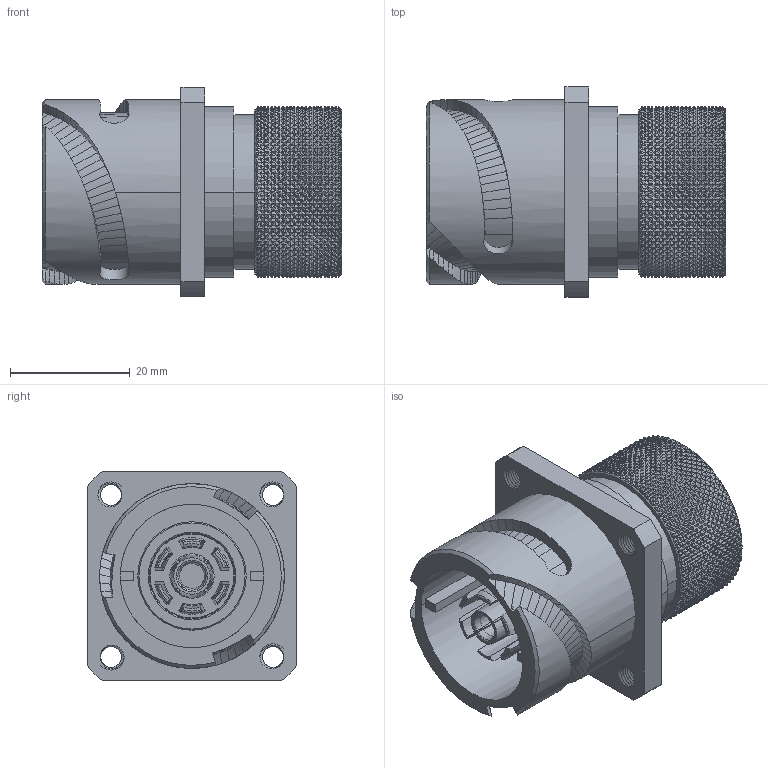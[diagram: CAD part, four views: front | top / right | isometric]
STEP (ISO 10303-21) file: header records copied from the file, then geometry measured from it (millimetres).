
FILE_DESCRIPTION((''),'2;1');
FILE_NAME('GCE3100E18M50S-B-T3_S_SW0001','2023-06-23T10:32:49',('paultorloting'),('NET AG system integration'),'CREO PARAMETRIC BY PTC INC, 2021404','CREO PARAMETRIC BY PTC INC, 2021404','');
FILE_SCHEMA(('AUTOMOTIVE_DESIGN { 1 0 10303 214 1 1 1 1 }'));
Products named in the file (1): GCE3100E18M50S-B-T3_S_SW0001
Bounding box: 50 x 35 x 35 mm (x, y, z)
Volume: 25365.8 mm3; surface area: 11857.9 mm2
Topology: 1 solids, 1 shells, 13140 faces, 28609 edges, 15495 vertices
Faces by surface type: bspline 5264, plane 4149, cylinder 1889, cone 1804, torus 34
Entity records: 537669 total; most frequent: CARTESIAN_POINT 213357, ORIENTED_EDGE 57218, DIRECTION 32569, EDGE_CURVE 28609, B_SPLINE_CURVE_WITH_KNOTS 18077, VERTEX_POINT 15495, AXIS2_PLACEMENT_3D 14148, EDGE_LOOP 13174
